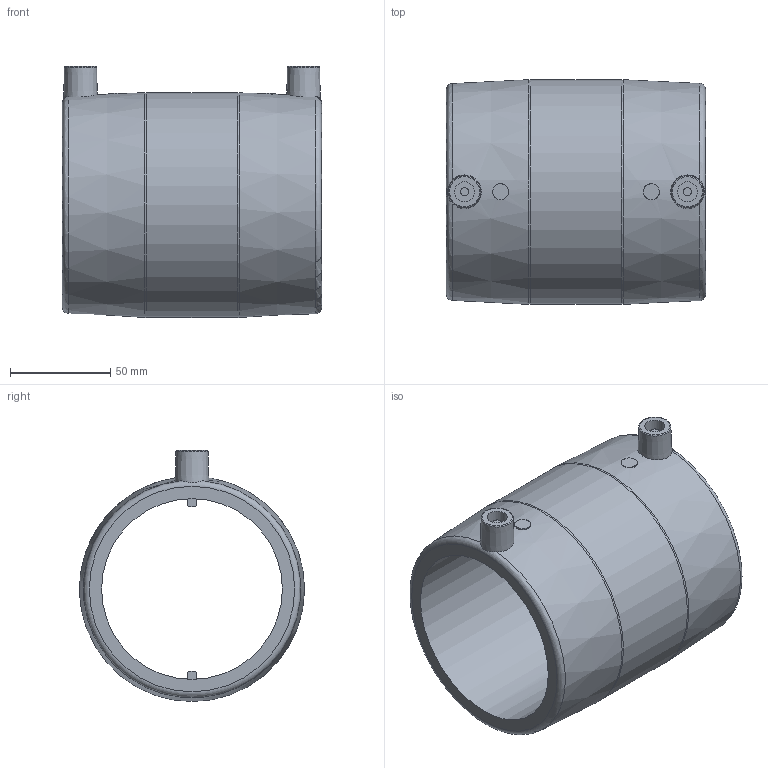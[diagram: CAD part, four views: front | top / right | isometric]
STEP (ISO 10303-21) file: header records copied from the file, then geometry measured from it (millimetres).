
FILE_DESCRIPTION(/* description */ ('Unknown'),/* implementation_level */ '2;1');
FILE_NAME(/* name */ 'MP090C',/* time_stamp */ '2021-02-10T15:42:44+01:00',/* author */ ('Unknown'),/* organization */ ('Unknown'),/* preprocessor_version */ 'ST-DEVELOPER v16.7',/* originating_system */ 'Solid Edge',/* authorisation */ 'Unknown');
FILE_SCHEMA (('AUTOMOTIVE_DESIGN {1 0 10303 214 3 1 1}'));
Length unit declared in the file: millimetre
Products named in the file (1): MP090C
Bounding box: 129 x 112 x 125 mm (x, y, z)
Volume: 424633 mm3; surface area: 88935.9 mm2
Topology: 1 solids, 1 shells, 42 faces, 99 edges, 66 vertices
Faces by surface type: plane 20, cylinder 12, torus 6, cone 4
Full cylindrical faces by diameter (mm): 4 x2, 8 x2, 10 x2, 90 x1, 112 x1
Entity records: 1076 total; most frequent: CARTESIAN_POINT 217, DIRECTION 182, ORIENTED_EDGE 132, AXIS2_PLACEMENT_3D 79, EDGE_LOOP 70, FACE_BOUND 70, EDGE_CURVE 66, VERTEX_POINT 52
